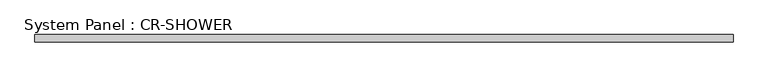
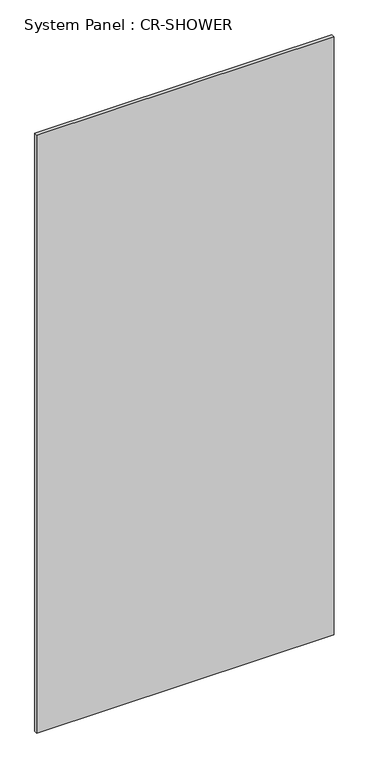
"""IFC4 building model written with IfcOpenShell, lengths in millimetres: plate geometry, System Panel : CR-SHOWER."""

from ifc_helpers import new_model, si_unit, origin, origin_with_axes, place, context, project, spatial, polyline, outline, extrude, source, transform, mapped, element, save


def system_panel_cr_shower_685ec66b(model_context):
    return source(origin(), model_context, "Body", "SweptSolid", [
        extrude(outline(polyline([(600.0, -12.45), (-600.0, -12.45), (-600.0, 0.05), (600.0, 0.05), (600.0, -12.45)])), origin_with_axes(), (0.0, 0.0, 1.0), 2550.0),
    ])


if __name__ == "__main__":
    model = new_model("IFC4")
    model_context = context("Model", 3, world=origin())
    ifc_project = project(units=[si_unit("LENGTHUNIT", "METRE", prefix="MILLI")], contexts=[model_context])
    site = spatial("IfcSite", under=ifc_project)
    building = spatial("IfcBuilding", under=site)
    placement = place(None, origin())
    system_panel_cr_shower_shape = system_panel_cr_shower_685ec66b(model_context)
    element("IfcPlate", 1, ObjectType="System Panel : CR-SHOWER", at=placement, inside=building, context=model_context, shape_type="MappedRepresentation", body=[
        mapped(system_panel_cr_shower_shape, transform((0.0, 0.0, 0.0), x_axis=(1.0, 0.0, 0.0), y_axis=(0.0, 1.0, 0.0), z_axis=(0.0, 0.0, 1.0))),
    ])
    save(model, "model.ifc")
